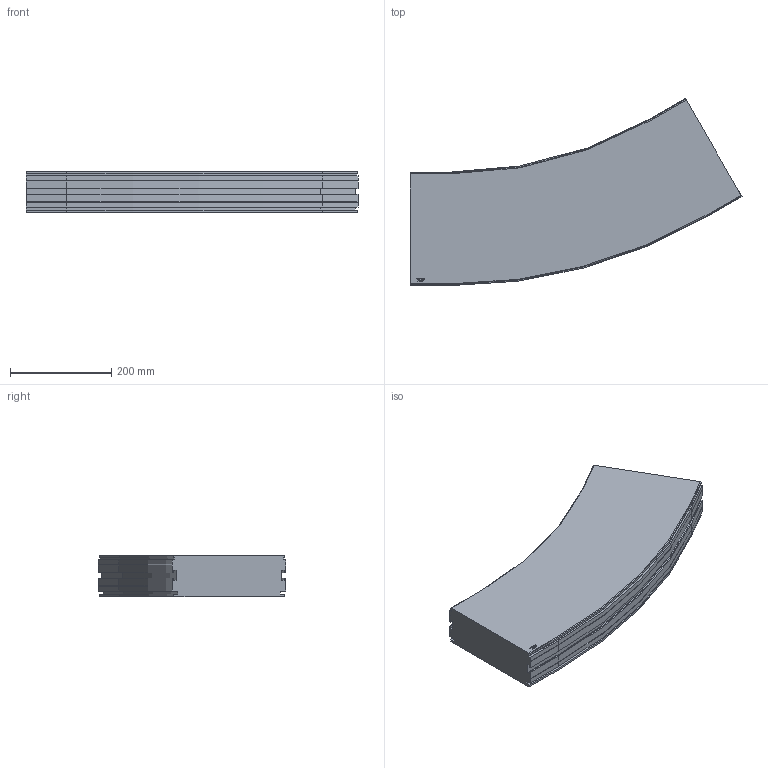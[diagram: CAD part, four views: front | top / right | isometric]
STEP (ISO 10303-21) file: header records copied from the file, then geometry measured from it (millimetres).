
FILE_DESCRIPTION(/* description */ ('GLIDKURVA SERIE 220'),/* implementation_level */ '2;1');
FILE_NAME(/* name */ '\\carryline.intra\privat\users\mathias\Desktop\Tillfälliga filer\220-5375+220-2000-01.stp',/* time_stamp */ '2018-11-29T12:53:42+01:00',/* author */ ('MD'),/* organization */ ('CARRYLINE'),/* preprocessor_version */ 'ST-DEVELOPER v17',/* originating_system */ 'Autodesk Inventor 2018',/* authorisation */ '');
FILE_SCHEMA (('AUTOMOTIVE_DESIGN { 1 0 10303 214 3 1 1 }'));
Length unit declared in the file: millimetre
Products named in the file (1): 220-5375+220-2000-01
Bounding box: 655.28 x 369.57 x 81.5 mm (x, y, z)
Volume: 11234634.2 mm3; surface area: 491134.1 mm2
Topology: 1 solids, 1 shells, 165 faces, 442 edges, 284 vertices
Faces by surface type: plane 115, cylinder 24, bspline 14, cone 12
Entity records: 5281 total; most frequent: CARTESIAN_POINT 1134, ORIENTED_EDGE 884, DIRECTION 774, EDGE_CURVE 442, LINE 358, VECTOR 358, VERTEX_POINT 284, AXIS2_PLACEMENT_3D 208
